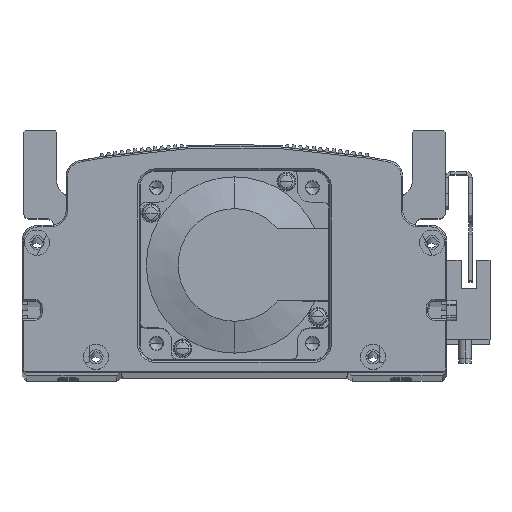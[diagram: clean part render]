
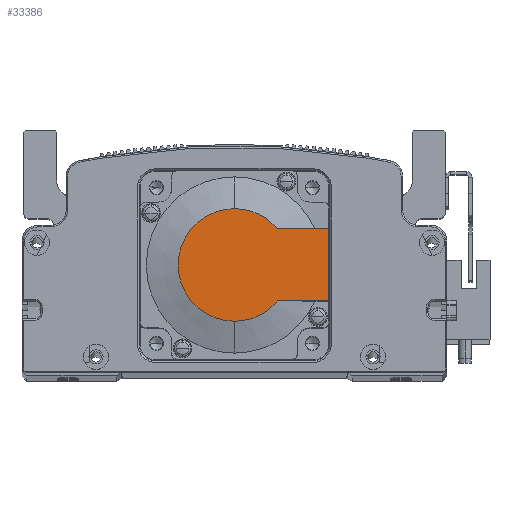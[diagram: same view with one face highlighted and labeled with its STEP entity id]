
A CAD part, top view. The second image highlights one B-rep face of the part: STEP entity #33386.
In plain terms, the highlighted planar face has unit normal (0, 0, 1) as drawn and (-1, 0, 0) by its records, which use the part's own axes.
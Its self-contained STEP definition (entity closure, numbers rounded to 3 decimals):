
#1163 = CARTESIAN_POINT ( 'NONE',  ( -118.5, 0., 0. ) ) ;
#1790 = DIRECTION ( 'NONE',  ( 0., 0., -1. ) ) ;
#2104 = FACE_OUTER_BOUND ( 'NONE', #25844, .T. ) ;
#2548 = VERTEX_POINT ( 'NONE', #28023 ) ;
#7947 = VERTEX_POINT ( 'NONE', #47588 ) ;
#7995 = AXIS2_PLACEMENT_3D ( 'NONE', #42357, #37663, #27098 ) ;
#8925 = AXIS2_PLACEMENT_3D ( 'NONE', #1163, #18013, #22482 ) ;
#10708 = EDGE_CURVE ( 'NONE', #56464, #2548, #37737, .T. ) ;
#13473 = ORIENTED_EDGE ( 'NONE', *, *, #23138, .F. ) ;
#14724 = VERTEX_POINT ( 'NONE', #32193 ) ;
#14770 = CARTESIAN_POINT ( 'NONE',  ( -118.5, 13.735, -11.45 ) ) ;
#16571 = LINE ( 'NONE', #40445, #56004 ) ;
#18013 = DIRECTION ( 'NONE',  ( -1., 0., 0. ) ) ;
#22482 = DIRECTION ( 'NONE',  ( 0., 0., -1. ) ) ;
#22755 = EDGE_CURVE ( 'NONE', #47468, #56464, #33433, .T. ) ;
#23138 = EDGE_CURVE ( 'NONE', #47407, #7947, #16571, .T. ) ;
#24479 = AXIS2_PLACEMENT_3D ( 'NONE', #52202, #51977, #36064 ) ;
#25198 = AXIS2_PLACEMENT_3D ( 'NONE', #27602, #49602, #1790 ) ;
#25844 = EDGE_LOOP ( 'NONE', ( #46554, #27609, #35583, #26878, #51216, #13473 ) ) ;
#26878 = ORIENTED_EDGE ( 'NONE', *, *, #52513, .T. ) ;
#27098 = DIRECTION ( 'NONE',  ( 0., 0., 1. ) ) ;
#27602 = CARTESIAN_POINT ( 'NONE',  ( -118.5, 0., 0. ) ) ;
#27609 = ORIENTED_EDGE ( 'NONE', *, *, #22755, .T. ) ;
#28023 = CARTESIAN_POINT ( 'NONE',  ( -118.5, 0., 17.881 ) ) ;
#30244 = LINE ( 'NONE', #59953, #52037 ) ;
#32193 = CARTESIAN_POINT ( 'NONE',  ( -118.5, 13.735, 11.45 ) ) ;
#33386 = ADVANCED_FACE ( 'NONE', ( #2104 ), #43288, .T. ) ;
#33433 = CIRCLE ( 'NONE', #24479, 17.881 ) ;
#35017 = VECTOR ( 'NONE', #55942, 1000. ) ;
#35583 = ORIENTED_EDGE ( 'NONE', *, *, #10708, .T. ) ;
#36064 = DIRECTION ( 'NONE',  ( 0., 0., -1. ) ) ;
#37663 = DIRECTION ( 'NONE',  ( -1., 0., 0. ) ) ;
#37737 = CIRCLE ( 'NONE', #25198, 17.881 ) ;
#40445 = CARTESIAN_POINT ( 'NONE',  ( -118.5, 30., 25. ) ) ;
#41146 = DIRECTION ( 'NONE',  ( 0., 0., 1. ) ) ;
#41757 = LINE ( 'NONE', #45186, #35017 ) ;
#42357 = CARTESIAN_POINT ( 'NONE',  ( -118.5, -8.941, 0. ) ) ;
#43288 = PLANE ( 'NONE',  #7995 ) ;
#45186 = CARTESIAN_POINT ( 'NONE',  ( -118.5, 0., 11.45 ) ) ;
#46554 = ORIENTED_EDGE ( 'NONE', *, *, #63669, .T. ) ;
#47407 = VERTEX_POINT ( 'NONE', #67484 ) ;
#47468 = VERTEX_POINT ( 'NONE', #14770 ) ;
#47588 = CARTESIAN_POINT ( 'NONE',  ( -118.5, 30., 11.45 ) ) ;
#49602 = DIRECTION ( 'NONE',  ( -1., 0., 0. ) ) ;
#51216 = ORIENTED_EDGE ( 'NONE', *, *, #67175, .F. ) ;
#51977 = DIRECTION ( 'NONE',  ( -1., 0., 0. ) ) ;
#52037 = VECTOR ( 'NONE', #59724, 1000. ) ;
#52202 = CARTESIAN_POINT ( 'NONE',  ( -118.5, 0., 0. ) ) ;
#52513 = EDGE_CURVE ( 'NONE', #2548, #14724, #60680, .T. ) ;
#55942 = DIRECTION ( 'NONE',  ( 0., -1., 0. ) ) ;
#56004 = VECTOR ( 'NONE', #41146, 1000. ) ;
#56464 = VERTEX_POINT ( 'NONE', #66019 ) ;
#59724 = DIRECTION ( 'NONE',  ( 0., -1., 0. ) ) ;
#59953 = CARTESIAN_POINT ( 'NONE',  ( -118.5, -8.941, -11.45 ) ) ;
#60680 = CIRCLE ( 'NONE', #8925, 17.881 ) ;
#63669 = EDGE_CURVE ( 'NONE', #47407, #47468, #30244, .T. ) ;
#66019 = CARTESIAN_POINT ( 'NONE',  ( -118.5, 0., -17.881 ) ) ;
#67175 = EDGE_CURVE ( 'NONE', #7947, #14724, #41757, .T. ) ;
#67484 = CARTESIAN_POINT ( 'NONE',  ( -118.5, 30., -11.45 ) ) ;
